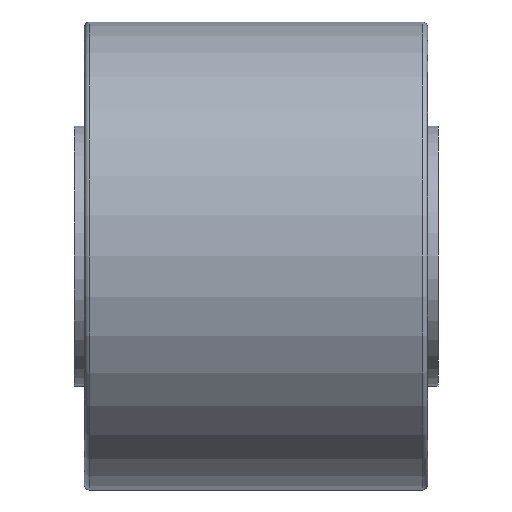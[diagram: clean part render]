
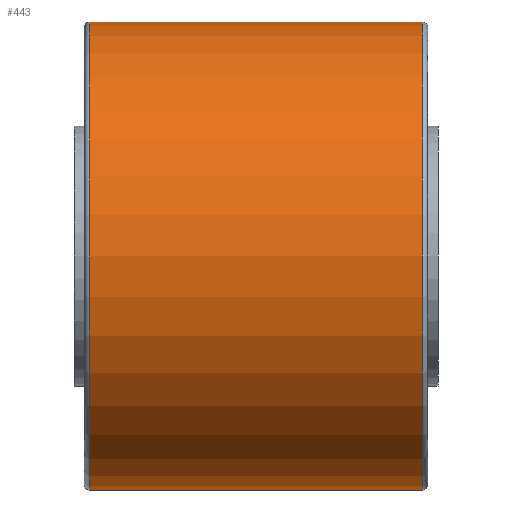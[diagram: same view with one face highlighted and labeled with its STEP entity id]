
A CAD part, front view. The second image highlights one B-rep face of the part: STEP entity #443.
In plain terms, the highlighted cylindrical face has radius 45 mm (diameter 90 mm), a partial arc.
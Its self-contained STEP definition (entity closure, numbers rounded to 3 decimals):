
#184 = ORIENTED_EDGE ( 'NONE', *, *, #444, .T. ) ;
#186 = EDGE_LOOP ( 'NONE', ( #446, #184, #199, #203 ) ) ;
#199 = ORIENTED_EDGE ( 'NONE', *, *, #308, .T. ) ;
#203 = ORIENTED_EDGE ( 'NONE', *, *, #445, .T. ) ;
#304 = EDGE_CURVE ( 'NONE', #388, #460, #994, .T. ) ;
#308 = EDGE_CURVE ( 'NONE', #379, #449, #995, .T. ) ;
#379 = VERTEX_POINT ( 'NONE', #1140 ) ;
#388 = VERTEX_POINT ( 'NONE', #908 ) ;
#443 = ADVANCED_FACE ( 'NONE', ( #1227 ), #1265, .T. ) ;
#444 = EDGE_CURVE ( 'NONE', #388, #379, #1253, .T. ) ;
#445 = EDGE_CURVE ( 'NONE', #449, #460, #1254, .T. ) ;
#446 = ORIENTED_EDGE ( 'NONE', *, *, #304, .F. ) ;
#449 = VERTEX_POINT ( 'NONE', #1242 ) ;
#460 = VERTEX_POINT ( 'NONE', #1258 ) ;
#908 = CARTESIAN_POINT ( 'NONE',  ( 32., 0., -45. ) ) ;
#991 = DIRECTION ( 'NONE',  ( -1., 0., 0. ) ) ;
#992 = VECTOR ( 'NONE', #991, 1000. ) ;
#993 = CARTESIAN_POINT ( 'NONE',  ( -41.122, 0., -45. ) ) ;
#994 = LINE ( 'NONE', #993, #992 ) ;
#995 = LINE ( 'NONE', #1040, #1039 ) ;
#1038 = DIRECTION ( 'NONE',  ( -1., 0., 0. ) ) ;
#1039 = VECTOR ( 'NONE', #1038, 1000. ) ;
#1040 = CARTESIAN_POINT ( 'NONE',  ( -41.122, 0., 45. ) ) ;
#1140 = CARTESIAN_POINT ( 'NONE',  ( 32., 0., 45. ) ) ;
#1227 = FACE_OUTER_BOUND ( 'NONE', #186, .T. ) ;
#1242 = CARTESIAN_POINT ( 'NONE',  ( -32., 0., 45. ) ) ;
#1244 = DIRECTION ( 'NONE',  ( 0., 0., -1. ) ) ;
#1245 = DIRECTION ( 'NONE',  ( 1., 0., 0. ) ) ;
#1246 = CARTESIAN_POINT ( 'NONE',  ( -32., 0., 0. ) ) ;
#1250 = DIRECTION ( 'NONE',  ( 0., 0., 1. ) ) ;
#1251 = DIRECTION ( 'NONE',  ( -1., 0., 0. ) ) ;
#1252 = CARTESIAN_POINT ( 'NONE',  ( 32., 0., 0. ) ) ;
#1253 = CIRCLE ( 'NONE', #1268, 45. ) ;
#1254 = CIRCLE ( 'NONE', #1259, 45. ) ;
#1255 = DIRECTION ( 'NONE',  ( 0., 0., 1. ) ) ;
#1256 = DIRECTION ( 'NONE',  ( -1., 0., 0. ) ) ;
#1257 = CARTESIAN_POINT ( 'NONE',  ( -41.122, 0., 0. ) ) ;
#1258 = CARTESIAN_POINT ( 'NONE',  ( -32., 0., -45. ) ) ;
#1259 = AXIS2_PLACEMENT_3D ( 'NONE', #1246, #1245, #1244 ) ;
#1265 = CYLINDRICAL_SURFACE ( 'NONE', #1267, 45. ) ;
#1267 = AXIS2_PLACEMENT_3D ( 'NONE', #1257, #1256, #1255 ) ;
#1268 = AXIS2_PLACEMENT_3D ( 'NONE', #1252, #1251, #1250 ) ;
